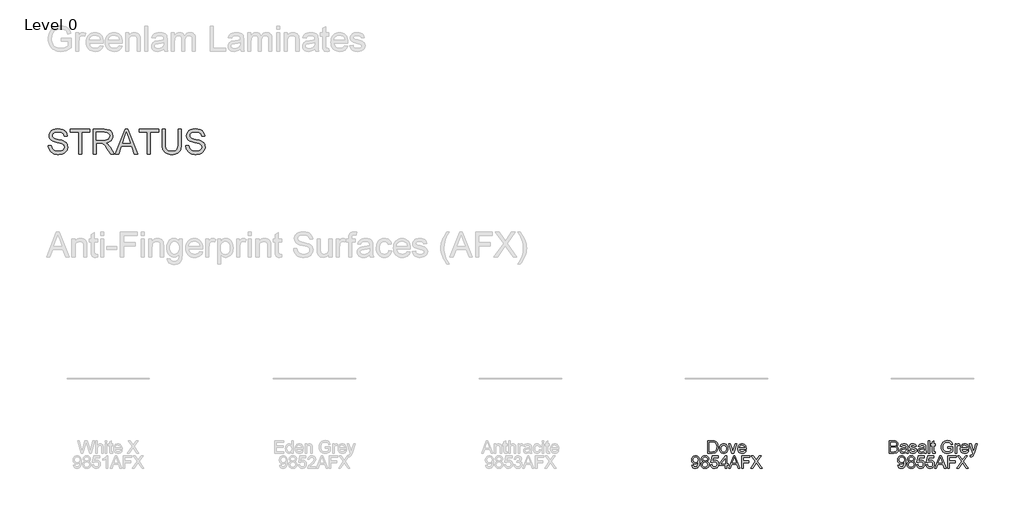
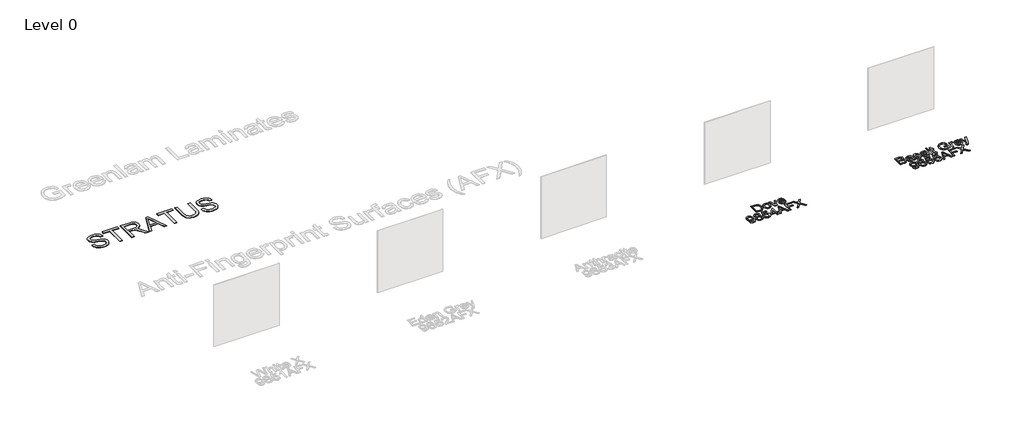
# One storey, part 8 of 9: 3 proxies.
"""IFC4 building model written with IfcOpenShell, lengths in millimetres."""

from ifc_helpers import new_model, si_unit, origin, origin_with_axes, place, context, project, spatial, polyline, outline, extrude, element, save

model = new_model("IFC4")

# Units and contexts
model_context = context("Model", 3, world=origin())
ifc_project = project(units=[si_unit("LENGTHUNIT", "METRE", prefix="MILLI")], contexts=[model_context])

# Site, building, storey
site = spatial("IfcSite", under=ifc_project)
building = spatial("IfcBuilding", under=site)
storey = spatial("IfcBuildingStorey", under=building, Name="Level 0", Elevation=0.0)

# Proxies
placement = place(None, origin())
element("IfcBuildingElementProxy", 1, Name="300mm Arial", ObjectType="300mm Arial", at=placement, inside=storey, context=model_context, shape_type="SweptSolid", body=[
    extrude(outline(polyline([(9492.1962424, -7002.860494), (9492.1962424, -6701.4915635), (9607.196154, -6701.4915635), (9638.8248086, -6703.7080526), (9663.5188875, -6710.3575196), (9682.4464162, -6721.6055116), (9696.7754199, -6737.6175755), (9705.7977258, -6756.4531336), (9708.8051611, -6776.1716086), (9706.2759724, -6794.317388), (9698.6884062, -6811.3779155), (9685.9872804, -6826.3047274), (9668.1174124, -6838.0493601), (9689.4637652, -6849.1961846), (9705.2367058, -6866.1555446), (9714.9763816, -6887.8054), (9718.2229402, -6913.0237108), (9716.0064512, -6934.0389697), (9709.3569841, -6953.5275184), (9699.4333673, -6970.1006023), (9687.394429, -6982.3694669), (9672.651558, -6991.253817), (9654.6161432, -6997.6733578), (9606.3132373, -7002.860494), (9492.1962424, -7002.860494)]), holes=[polyline([(9529.8673587, -6823.9226915), (9598.6612918, -6823.9226915), (9638.8340056, -6820.68533), (9652.8962949, -6815.1027207), (9663.0038527, -6806.7426024), (9669.1014968, -6795.7337336), (9671.1340448, -6782.2048733), (9669.2394525, -6769.071486), (9663.5556757, -6757.630356), (9654.3402317, -6748.7000206), (9641.850638, -6743.0990172), (9593.4373674, -6739.1626798), (9529.8673587, -6739.1626798), (9529.8673587, -6823.9226915)]), polyline([(9529.8673587, -6965.1893777), (9607.1225776, -6965.1893777), (9635.0816093, -6963.7178497), (9658.7364216, -6955.5140812), (9674.4081946, -6938.7754504), (9679.0159166, -6926.9480443), (9680.5518239, -6913.3915928), (9678.7492021, -6897.6462434), (9673.3413368, -6884.1081859), (9663.8959666, -6873.5223815), (9649.9808301, -6866.6337912), (9630.2715522, -6862.8538037), (9603.4437577, -6861.5938078), (9529.8673587, -6861.5938078), (9529.8673587, -6965.1893777)])]), origin_with_axes(), (0.0, 0.0, 1.0), 10.0),
    extrude(outline(polyline([(9906.5785217, -6974.6071568), (9888.5798951, -6990.0398064), (9870.0478396, -7000.1381672), (9850.5592909, -7005.7115794), (9829.6911847, -7007.5693835), (9798.209683, -7003.0996173), (9774.987132, -6989.6903186), (9760.6673254, -6969.3280501), (9755.8940565, -6943.9993748), (9757.6966783, -6928.3827841), (9763.1045436, -6914.2009331), (9771.4462678, -6902.0608273), (9782.0504664, -6892.5694718), (9808.4276054, -6880.2086368), (9841.0219502, -6874.5432541), (9879.5391951, -6868.5835657), (9906.3577925, -6861.5938078), (9906.5785217, -6853.2060983), (9903.9849537, -6836.3938912), (9896.2042495, -6825.3942195), (9878.8034311, -6817.2272392), (9854.5600076, -6814.5049125), (9832.1192059, -6816.3167313), (9816.4474329, -6821.7521878), (9805.7604609, -6831.8045633), (9798.2740623, -6847.4671392), (9760.602946, -6842.7582497), (9767.1420485, -6822.156858), (9776.9001184, -6805.9700502), (9790.7876637, -6793.590821), (9809.7151924, -6784.4121652), (9832.8641669, -6778.7283884), (9859.4160499, -6776.8337961), (9884.8826811, -6778.5076592), (9905.0702055, -6783.5292485), (9920.2913231, -6791.0800264), (9930.8587334, -6800.3414556), (9937.8668854, -6811.7917827), (9942.410228, -6825.9092543), (9944.249638, -6858.8714811), (9944.249638, -6905.7396473), (9946.1626244, -6971.1858542), (9953.6674171, -7002.860494), (9915.9963008, -7002.860494), (9906.5785217, -6974.6071568)]), holes=[polyline([(9906.5785217, -6899.2649241), (9845.8044161, -6910.8164188), (9813.3940123, -6916.9232599), (9798.7155207, -6926.8560738), (9793.5651728, -6941.3506244), (9796.370273, -6952.5526311), (9804.7855737, -6961.7312869), (9818.6271337, -6967.8565221), (9837.7110122, -6969.8982672), (9857.944522, -6967.64499), (9875.8235869, -6960.8851583), (9890.3181375, -6950.9247533), (9900.3981042, -6939.069756), (9904.8678704, -6926.8560738), (9906.3577925, -6909.933502), (9906.5785217, -6899.2649241)])]), origin_with_axes(), (0.0, 0.0, 1.0), 10.0),
    extrude(outline(polyline([(9981.9207543, -6936.9360404), (10019.5918706, -6932.2271509), (10025.5331649, -6948.3403823), (10037.0294772, -6960.1861825), (10054.1543841, -6967.470246), (10076.9814619, -6969.8982672), (10099.5326282, -6967.6725811), (10115.3883422, -6960.9955229), (10124.7693331, -6951.3202265), (10127.89633, -6940.0998256), (10124.750939, -6930.4981055), (10115.3147658, -6923.1772538), (10076.5400035, -6912.4350996), (10019.8125998, -6894.0042116), (10005.456005, -6884.7427824), (9995.0541416, -6872.4831149), (9988.7357683, -6858.0069584), (9986.6296439, -6842.0960621), (9988.321901, -6827.5003439), (9993.3986726, -6814.0266659), (10001.400106, -6802.2084568), (10011.8663487, -6792.5791455), (10035.8154666, -6781.4323211), (10068.2258704, -6776.8337961), (10092.7452054, -6778.6824032), (10114.063967, -6784.2282242), (10131.207268, -6792.9286334), (10143.200221, -6804.2410048), (10151.1464721, -6819.0022698), (10156.1496672, -6838.0493601), (10118.4785509, -6842.7582497), (10113.7236762, -6830.9032524), (10104.3150941, -6821.972917), (10090.1608344, -6816.3719136), (10071.1689264, -6814.5049125), (10049.537465, -6816.2891401), (10035.1164908, -6821.6418232), (10027.0046928, -6829.3673451), (10024.3007602, -6838.2700893), (10028.7889205, -6849.2329728), (10042.8420127, -6857.5471059), (10075.2892047, -6865.5669334), (10130.5818686, -6883.2988455), (10145.1867838, -6891.7785255), (10156.2600318, -6903.3852025), (10163.2405927, -6918.1556646), (10165.5674463, -6936.1267001), (10162.8359225, -6954.7047408), (10154.6413511, -6972.1791356), (10141.2964317, -6987.1795239), (10123.1138641, -6998.3355454), (10101.151309, -7005.260924), (10076.4664271, -7007.5693835), (10038.4826111, -7003.1180114), (10010.7627028, -6989.763895), (9992.2582384, -6967.654187), (9981.9207543, -6936.9360404)])), origin_with_axes(), (0.0, 0.0, 1.0), 10.0),
    extrude(outline(polyline([(10349.2141383, -6974.6071568), (10331.2155117, -6990.0398064), (10312.6834562, -7000.1381672), (10293.1949075, -7005.7115794), (10272.3268013, -7007.5693835), (10240.8452996, -7003.0996173), (10217.6227486, -6989.6903186), (10203.302942, -6969.3280501), (10198.5296731, -6943.9993748), (10200.3322949, -6928.3827841), (10205.7401602, -6914.2009331), (10214.0818844, -6902.0608273), (10224.6860829, -6892.5694718), (10251.063222, -6880.2086368), (10283.6575668, -6874.5432541), (10322.1748117, -6868.5835657), (10348.9934091, -6861.5938078), (10349.2141383, -6853.2060983), (10346.6205703, -6836.3938912), (10338.8398661, -6825.3942195), (10321.4390477, -6817.2272392), (10297.1956242, -6814.5049125), (10274.7548225, -6816.3167313), (10259.0830495, -6821.7521878), (10248.3960775, -6831.8045633), (10240.9096789, -6847.4671392), (10203.2385626, -6842.7582497), (10209.7776651, -6822.156858), (10219.535735, -6805.9700502), (10233.4232803, -6793.590821), (10252.350809, -6784.4121652), (10275.4997835, -6778.7283884), (10302.0516665, -6776.8337961), (10327.5182977, -6778.5076592), (10347.7058221, -6783.5292485), (10362.9269397, -6791.0800264), (10373.49435, -6800.3414556), (10380.502502, -6811.7917827), (10385.0458446, -6825.9092543), (10386.8852546, -6858.8714811), (10386.8852546, -6905.7396473), (10388.798241, -6971.1858542), (10396.3030337, -7002.860494), (10358.6319174, -7002.860494), (10349.2141383, -6974.6071568)]), holes=[polyline([(10349.2141383, -6899.2649241), (10288.4400327, -6910.8164188), (10256.0296289, -6916.9232599), (10241.3511373, -6926.8560738), (10236.2007894, -6941.3506244), (10239.0058896, -6952.5526311), (10247.4211903, -6961.7312869), (10261.2627503, -6967.8565221), (10280.3466288, -6969.8982672), (10300.5801386, -6967.64499), (10318.4592035, -6960.8851583), (10332.9537541, -6950.9247533), (10343.0337208, -6939.069756), (10347.503487, -6926.8560738), (10348.9934091, -6909.933502), (10349.2141383, -6899.2649241)])]), origin_with_axes(), (0.0, 0.0, 1.0), 10.0),
    extrude(outline(polyline([(10438.6830395, -7002.860494), (10438.6830395, -6701.4915635), (10476.3541558, -6701.4915635), (10476.3541558, -7002.860494), (10438.6830395, -7002.860494)])), origin_with_axes(), (0.0, 0.0, 1.0), 10.0),
    extrude(outline(polyline([(10612.9119525, -6971.4433716), (10617.620842, -7003.96414), (10589.4410812, -7007.5693835), (10571.3596811, -7006.005885), (10557.876806, -7001.3153896), (10548.3486623, -6994.0865084), (10542.1314566, -6984.9078526), (10538.710154, -6969.1441091), (10537.5697198, -6942.1599648), (10537.5697198, -6819.213802), (10509.3163826, -6819.213802), (10509.3163826, -6781.5426857), (10537.5697198, -6781.5426857), (10537.5697198, -6727.758338), (10575.2408362, -6705.6118419), (10575.2408362, -6781.5426857), (10612.9119525, -6781.5426857), (10612.9119525, -6819.213802), (10575.2408362, -6819.213802), (10575.2408362, -6941.0563188), (10577.2273989, -6960.4804881), (10583.6653338, -6967.3598814), (10596.5044155, -6969.8982672), (10612.9119525, -6971.4433716)])), origin_with_axes(), (0.0, 0.0, 1.0), 10.0),
    extrude(outline(polyline([(10914.2808829, -6885.1382555), (10914.2808829, -6847.4671392), (11036.7120109, -6847.4671392), (11036.7120109, -6960.1126061), (11006.9595545, -6980.8059684), (10976.2689991, -6995.6500069), (10944.713921, -7004.5895394), (10912.3678965, -7007.5693835), (10870.1074523, -7002.8329028), (10831.9121042, -6988.6234608), (10800.1822821, -6965.437698), (10777.3184161, -6933.7722553), (10763.4952501, -6895.7884393), (10758.8875281, -6853.6475567), (10763.476856, -6811.2031715), (10777.2448397, -6771.7202364), (10799.6212621, -6738.6016598), (10830.035906, -6715.2503502), (10867.0816229, -6701.399593), (10909.3512642, -6696.782674), (10940.3821105, -6699.4590155), (10968.2859598, -6707.4880401), (10991.7844222, -6720.2903335), (11009.5991079, -6737.2864817), (11022.7784803, -6759.295022), (11032.3710034, -6787.134492), (10997.642943, -6796.9201531), (10989.88983, -6777.0637224), (10980.4628538, -6762.0817281), (10967.9916542, -6750.7877509), (10951.1058706, -6741.9953712), (10930.9735284, -6736.3391855), (10908.762653, -6734.4537903), (10882.762593, -6736.4863383), (10860.5333234, -6742.5839824), (10842.1576178, -6751.9833674), (10827.7182494, -6763.9211381), (10808.3308683, -6792.9470275), (10799.5017004, -6821.3843058), (10796.5586445, -6852.1024524), (10800.0995087, -6888.1272967), (10810.7221013, -6917.7693885), (10828.1045255, -6940.8171955), (10851.9248847, -6957.0591856), (10879.8011429, -6966.6884968), (10909.3512642, -6969.8982672), (10935.4432947, -6967.4794431), (10960.8915317, -6960.2229707), (10982.9920426, -6950.2257775), (10999.0408946, -6939.5847908), (10999.0408946, -6885.1382555), (10914.2808829, -6885.1382555)])), origin_with_axes(), (0.0, 0.0, 1.0), 10.0),
    extrude(outline(polyline([(11093.2186854, -7002.860494), (11093.2186854, -6781.5426857), (11126.1809121, -6781.5426857), (11126.1809121, -6814.2841833), (11138.3578062, -6795.3014723), (11149.578207, -6784.1178596), (11160.8353961, -6778.654812), (11173.1226547, -6776.8337961), (11191.8846365, -6779.7400639), (11210.9409238, -6788.4588672), (11198.3593596, -6822.2304343), (11185.1156078, -6816.4362929), (11171.8718559, -6814.5049125), (11160.6238639, -6816.3627165), (11150.5714884, -6821.9361288), (11142.4504934, -6830.8020848), (11136.9966428, -6842.5375205), (11132.4165119, -6863.5803706), (11130.8898017, -6886.5362071), (11130.8898017, -7002.860494), (11093.2186854, -7002.860494)])), origin_with_axes(), (0.0, 0.0, 1.0), 10.0),
    extrude(outline(polyline([(11389.4372679, -6936.9360404), (11426.3726202, -6941.64493), (11413.064489, -6969.4752029), (11391.8285008, -6990.2789297), (11363.1429023, -7003.2467701), (11327.4859399, -7007.5693835), (11304.1116376, -7005.7046817), (11283.2849182, -7000.1105761), (11265.0057815, -6990.7870668), (11249.2742277, -6977.7341537), (11236.6236856, -6961.3151204), (11227.5875841, -6941.8932503), (11222.1659232, -6919.4685435), (11220.3587029, -6894.0409998), (11222.1843173, -6867.7512327), (11227.6611605, -6844.5792656), (11236.7892325, -6824.5250983), (11249.5685333, -6807.5887309), (11265.2587004, -6794.133447), (11283.1193713, -6784.5225298), (11303.1505459, -6778.7559796), (11325.3522243, -6776.8337961), (11346.8388321, -6778.751381), (11366.2698992, -6784.5041357), (11383.6454257, -6794.0920602), (11398.9654116, -6807.5151545), (11411.4711001, -6824.4147337), (11420.4037348, -6844.4321128), (11425.7633156, -6867.5672917), (11427.5498426, -6893.8202706), (11427.3291134, -6903.9738137), (11258.0298192, -6903.9738137), (11264.5505276, -6932.1719686), (11279.6980687, -6952.902119), (11301.5594563, -6965.6492302), (11328.2217039, -6969.8982672), (11348.2712726, -6967.9300985), (11365.1570562, -6962.0255925), (11378.8790546, -6951.8168672), (11389.4372679, -6936.9360404)]), holes=[polyline([(11258.0298192, -6866.3026974), (11389.8787263, -6866.3026974), (11384.7835606, -6846.4002814), (11374.7955645, -6832.1632482), (11352.8330094, -6818.9194964), (11325.2050715, -6814.5049125), (11299.8120168, -6818.0273826), (11278.8151519, -6828.5947929), (11264.2194338, -6845.0667092), (11258.0298192, -6866.3026974)])]), origin_with_axes(), (0.0, 0.0, 1.0), 10.0),
    extrude(outline(polyline([(11465.2209589, -7087.6205057), (11460.5120693, -7051.3473409), (11479.6419331, -7054.6582789), (11497.5209981, -7050.5012124), (11508.4838815, -7038.9129295), (11518.7845774, -7011.1746271), (11521.7276333, -7002.0511536), (11441.6765112, -6781.5426857), (11481.4077667, -6781.5426857), (11523.8613489, -6904.4152721), (11538.6502051, -6953.5643066), (11553.4390613, -6910.1542312), (11597.069866, -6781.5426857), (11636.5068158, -6781.5426857), (11559.472326, -7008.1579947), (11539.4595455, -7057.3070293), (11529.2140319, -7072.9971964), (11517.607355, -7083.8681093), (11504.1244799, -7090.2140737), (11488.2503718, -7092.3293952), (11465.2209589, -7087.6205057)])), origin_with_axes(), (0.0, 0.0, 1.0), 10.0),
    extrude(outline(polyline([(9704.0962716, -7293.4427149), (9741.7673879, -7288.7338254), (9748.2053228, -7310.1169663), (9758.6899597, -7324.6758963), (9772.9637811, -7333.0360146), (9790.7692696, -7335.8227207), (9806.7445453, -7334.029296), (9821.266687, -7328.6490218), (9833.3332165, -7320.2705094), (9841.9416552, -7309.4823699), (9854.265702, -7276.7408723), (9859.7103555, -7233.0364913), (9859.4896263, -7225.6788514), (9846.4390126, -7241.6081418), (9829.3600909, -7254.2264942), (9809.4852661, -7262.4486568), (9788.0469429, -7265.1893777), (9770.1517831, -7263.5155146), (9753.6959616, -7258.4939254), (9738.6794784, -7250.12461), (9725.1023335, -7238.4075684), (9713.8520422, -7223.9544045), (9705.8161199, -7207.3767221), (9700.9945665, -7188.6745212), (9699.387382, -7167.8478018), (9701.0727414, -7146.326705), (9706.1288196, -7127.0129003), (9714.5556165, -7109.9063875), (9726.3531323, -7095.0071667), (9740.6890338, -7082.9360387), (9756.730988, -7074.3138045), (9774.478995, -7069.1404639), (9793.9330548, -7067.4160171), (9822.0300422, -7071.3523544), (9847.6070379, -7083.1613665), (9868.9993759, -7102.254442), (9884.5423902, -7128.0429699), (9894.0061545, -7163.6907352), (9897.1607426, -7212.3615232), (9894.0153516, -7263.96617), (9884.5791784, -7303.8537754), (9868.9349966, -7333.8269609), (9847.1655795, -7355.6883485), (9820.2090263, -7369.0424649), (9789.0034361, -7373.4938371), (9756.7953674, -7368.2423216), (9731.09881, -7352.4877751), (9713.1277746, -7327.2234791), (9704.0962716, -7293.4427149)]), holes=[polyline([(9859.4896263, -7166.964885), (9855.4245303, -7141.4338745), (9843.2292422, -7121.788976), (9824.3017135, -7109.262594), (9800.0398959, -7105.0871334), (9774.8767674, -7109.5844908), (9754.7168341, -7123.0765629), (9741.4730823, -7143.7239399), (9737.0584983, -7169.6872117), (9741.233959, -7192.964945), (9753.7603409, -7211.4418182), (9773.4236336, -7223.4991506), (9799.0098263, -7227.5182614), (9823.0785059, -7223.4991506), (9842.45669, -7211.4418182), (9855.2313922, -7192.2843633), (9859.4896263, -7166.964885)])]), origin_with_axes(), (0.0, 0.0, 1.0), 10.0),
    extrude(outline(polyline([(9985.0109631, -7202.7965913), (9964.8418327, -7192.8637774), (9950.6875729, -7179.3992964), (9942.3274546, -7162.6790597), (9939.5407485, -7142.9789789), (9941.0582617, -7127.6153071), (9945.6108014, -7113.5300252), (9953.1983676, -7100.7231332), (9963.8209602, -7089.1946312), (9976.968143, -7079.6664875), (9992.1294797, -7072.8606706), (10028.4946149, -7067.4160171), (10065.0804793, -7072.9894293), (10080.407363, -7079.9561946), (10093.7568809, -7089.709666), (10104.5726115, -7101.4634957), (10112.2981334, -7114.4313361), (10116.9334466, -7128.613187), (10118.4785509, -7144.0090485), (10115.728633, -7163.0745329), (10107.4788793, -7179.509661), (10093.6373192, -7192.8913686), (10074.1119823, -7202.7965913), (10097.2977451, -7214.7435591), (10114.1743316, -7232.3375155), (10124.4658304, -7254.732332), (10127.89633, -7281.0818799), (10126.1948758, -7299.8714528), (10121.0905131, -7317.0975272), (10112.583242, -7332.7601031), (10100.6730624, -7346.8591806), (10085.9853737, -7358.5118428), (10069.1455754, -7366.8351729), (10050.1536674, -7371.829171), (10029.0096497, -7373.4938371), (10007.865632, -7371.8222732), (9988.873724, -7366.8075818), (9972.0339257, -7358.4497627), (9957.3462371, -7346.748816), (9945.4360575, -7332.5508703), (9936.9287863, -7316.7020541), (9931.8244236, -7299.2023674), (9930.1229694, -7280.0518103), (9933.6914248, -7252.6813898), (9944.3967908, -7230.1670117), (9961.6872446, -7213.2812282), (9985.0109631, -7202.7965913)]), holes=[polyline([(9977.2118648, -7144.0826249), (9980.5503939, -7160.52695), (9990.5659812, -7173.6603373), (10006.9643212, -7182.268776), (10029.4511081, -7185.1382555), (10051.4136632, -7182.2871701), (10067.5636828, -7173.7339137), (10077.4964967, -7161.0419848), (10080.8074346, -7145.774882), (10077.3861321, -7129.9283651), (10067.1222244, -7116.822569), (10050.7514756, -7108.0209923), (10029.0096497, -7105.0871334), (10007.1298681, -7107.9566129), (9990.7867104, -7116.5650516), (9980.6055762, -7129.1834041), (9977.2118648, -7144.0826249)]), polyline([(9967.7940857, -7278.7274351), (9974.0848678, -7307.0911369), (9982.7944741, -7319.2588339), (9996.3417285, -7328.317928), (10012.5653245, -7333.9465226), (10029.3039553, -7335.8227207), (10054.9453304, -7331.8771864), (10074.1855587, -7320.0405832), (10086.2153, -7302.1155329), (10090.2252137, -7279.9046575), (10086.0865413, -7257.316703), (10073.6705239, -7238.9961796), (10053.9888372, -7226.8560738), (10028.0531565, -7222.8093718), (10002.7704664, -7226.8008915), (9983.7233761, -7238.7754504), (9971.7764083, -7256.7464859), (9967.7940857, -7278.7274351)])]), origin_with_axes(), (0.0, 0.0, 1.0), 10.0),
    extrude(outline(polyline([(10160.8585568, -7288.7338254), (10198.5296731, -7284.0249358), (10205.4458546, -7306.6404815), (10217.512384, -7322.8364863), (10234.6740791, -7332.5761621), (10256.8757575, -7335.8227207), (10283.878296, -7331.3069693), (10304.1118057, -7317.7597148), (10316.7485522, -7296.7444558), (10320.9608011, -7269.8246908), (10317.0152667, -7244.4776213), (10305.1786635, -7225.0902402), (10285.359021, -7212.7845875), (10257.4643687, -7208.6827032), (10239.1898306, -7210.3197781), (10224.3917774, -7215.2310027), (10203.2385626, -7232.2271509), (10165.5674463, -7227.5182614), (10198.5296731, -7072.1249066), (10344.5052488, -7072.1249066), (10344.5052488, -7109.7960229), (10228.9903023, -7109.7960229), (10212.8770709, -7192.790201), (10239.7876389, -7176.4562404), (10267.9857938, -7171.0115869), (10286.331609, -7172.6992456), (10303.1829037, -7177.7622215), (10318.5396777, -7186.2005148), (10332.4019311, -7198.0141254), (10343.8775501, -7212.4810848), (10352.0744208, -7228.8794248), (10356.9925433, -7247.2091452), (10358.6319174, -7267.470246), (10352.7274114, -7305.1413624), (10345.3467788, -7321.9351754), (10335.0138933, -7337.3678251), (10319.3605144, -7353.1729553), (10301.0951733, -7364.4623341), (10280.2178701, -7371.2359613), (10256.7286047, -7373.4938371), (10219.7288731, -7367.6904986), (10204.0502023, -7360.4363255), (10190.2523282, -7350.2804832), (10178.7721107, -7337.7288093), (10170.0464096, -7323.2871418), (10160.8585568, -7288.7338254)])), origin_with_axes(), (0.0, 0.0, 1.0), 10.0),
    extrude(outline(polyline([(10391.5941442, -7288.7338254), (10429.2652605, -7284.0249358), (10436.181442, -7306.6404815), (10448.2479714, -7322.8364863), (10465.4096665, -7332.5761621), (10487.6113449, -7335.8227207), (10514.6138833, -7331.3069693), (10534.8473931, -7317.7597148), (10547.4841396, -7296.7444558), (10551.6963885, -7269.8246908), (10547.7508541, -7244.4776213), (10535.9142509, -7225.0902402), (10516.0946084, -7212.7845875), (10488.1999561, -7208.6827032), (10469.925418, -7210.3197781), (10455.1273647, -7215.2310027), (10433.97415, -7232.2271509), (10396.3030337, -7227.5182614), (10429.2652605, -7072.1249066), (10575.2408362, -7072.1249066), (10575.2408362, -7109.7960229), (10459.7258897, -7109.7960229), (10443.6126583, -7192.790201), (10470.5232262, -7176.4562404), (10498.7213812, -7171.0115869), (10517.0671964, -7172.6992456), (10533.918491, -7177.7622215), (10549.2752651, -7186.2005148), (10563.1375185, -7198.0141254), (10574.6131375, -7212.4810848), (10582.8100082, -7228.8794248), (10587.7281306, -7247.2091452), (10589.3675048, -7267.470246), (10583.4629987, -7305.1413624), (10576.0823662, -7321.9351754), (10565.7494807, -7337.3678251), (10550.0961018, -7353.1729553), (10531.8307607, -7364.4623341), (10510.9534575, -7371.2359613), (10487.4641921, -7373.4938371), (10450.4644604, -7367.6904986), (10434.7857897, -7360.4363255), (10420.9879156, -7350.2804832), (10409.5076981, -7337.7288093), (10400.781997, -7323.2871418), (10391.5941442, -7288.7338254)])), origin_with_axes(), (0.0, 0.0, 1.0), 10.0),
    extrude(outline(polyline([(10601.3604578, -7368.7849475), (10721.6578702, -7067.4160171), (10753.7371802, -7067.4160171), (10874.0345926, -7368.7849475), (10834.2297608, -7368.7849475), (10799.7224296, -7274.6071568), (10675.5990444, -7274.6071568), (10641.1652897, -7368.7849475), (10601.3604578, -7368.7849475)]), holes=[polyline([(10689.4314075, -7236.9360404), (10785.963643, -7236.9360404), (10758.8139517, -7162.8446066), (10737.6975252, -7105.0871334), (10718.9355435, -7156.3698835), (10689.4314075, -7236.9360404)])]), origin_with_axes(), (0.0, 0.0, 1.0), 10.0),
    extrude(outline(polyline([(10914.2808829, -7368.7849475), (10914.2808829, -7067.4160171), (11116.7631331, -7067.4160171), (11116.7631331, -7105.0871334), (10951.9519992, -7105.0871334), (10951.9519992, -7194.5560346), (11093.2186854, -7194.5560346), (11093.2186854, -7232.2271509), (10951.9519992, -7232.2271509), (10951.9519992, -7368.7849475), (10914.2808829, -7368.7849475)])), origin_with_axes(), (0.0, 0.0, 1.0), 10.0),
    extrude(outline(polyline([(11135.5986912, -7368.7849475), (11251.7758253, -7204.5624249), (11154.4342494, -7067.4160171), (11199.6101584, -7067.4160171), (11254.4245756, -7144.5976597), (11272.8922518, -7174.6904069), (11294.5237131, -7144.0826249), (11348.7495192, -7067.4160171), (11394.5876158, -7067.4160171), (11297.2460399, -7205.0038833), (11413.423174, -7368.7849475), (11368.247265, -7368.7849475), (11290.8448932, -7259.5975713), (11274.7316618, -7236.9360404), (11256.9997496, -7261.8048633), (11181.4367878, -7368.7849475), (11135.5986912, -7368.7849475)])), origin_with_axes(), (0.0, 0.0, 1.0), 10.0),
])
element("IfcBuildingElementProxy", 2, Name="300mm Arial", ObjectType="300mm Arial", at=placement, inside=storey, context=model_context, shape_type="SweptSolid", body=[
    extrude(outline(polyline([(5094.9341033, -7002.860494), (5094.9341033, -6701.4915635), (5198.8975551, -6701.4915635), (5252.6819028, -6705.8325711), (5276.7045971, -6714.2018865), (5296.974895, -6727.390456), (5317.81541, -6750.3462925), (5332.6594485, -6778.8939353), (5341.5437987, -6812.4815615), (5344.5052488, -6850.557348), (5342.5002919, -6882.9033724), (5336.4854213, -6911.3682418), (5327.3251596, -6935.6024682), (5315.8840296, -6955.2565638), (5302.7138541, -6970.771987), (5288.3664563, -6982.590196), (5271.89454, -6991.3549846), (5252.350809, -6997.710146), (5203.9007502, -7002.860494), (5094.9341033, -7002.860494)]), holes=[polyline([(5132.6052196, -6965.1893777), (5199.2654371, -6965.1893777), (5226.8381926, -6963.8282143), (5247.752284, -6959.7447241), (5263.5344216, -6953.1780305), (5275.7113157, -6944.3672567), (5288.7987177, -6928.0608873), (5298.630364, -6906.9536578), (5304.7831903, -6880.9535978), (5306.8341325, -6849.9687368), (5302.8150217, -6808.9131061), (5290.7576893, -6778.5996297), (5272.9430037, -6757.7775088), (5251.6518332, -6745.1959446), (5229.9835837, -6740.670996), (5198.2353675, -6739.1626798), (5132.6052196, -6739.1626798), (5132.6052196, -6965.1893777)])]), origin_with_axes(), (0.0, 0.0, 1.0), 10.0),
    extrude(outline(polyline([(5382.1763651, -6892.2015898), (5384.2135116, -6863.5389839), (5390.3249513, -6838.8403064), (5400.510684, -6818.1055575), (5414.7707099, -6801.334737), (5429.1273047, -6790.6155754), (5444.9738217, -6782.9590314), (5462.3102607, -6778.3651049), (5481.1366218, -6776.8337961), (5501.9196553, -6778.698498), (5520.7115274, -6784.2926036), (5537.5122383, -6793.6161129), (5552.3217879, -6806.669026), (5564.4090107, -6823.0098843), (5573.0427412, -6842.1972296), (5578.2229796, -6864.2310619), (5579.9497257, -6889.1113811), (5576.8963051, -6927.1687735), (5567.7360435, -6956.1394806), (5552.7356551, -6977.8353213), (5532.1618545, -6994.0681143), (5507.725293, -7004.1940662), (5481.1366218, -7007.5693835), (5460.0500857, -7005.7115794), (5441.0834696, -7000.1381672), (5424.2367734, -6990.8491468), (5409.5099973, -6977.8445183), (5397.5515332, -6961.3450108), (5389.0097731, -6941.5713536), (5383.8847171, -6918.5235466), (5382.1763651, -6892.2015898)]), holes=[polyline([(5419.8474814, -6892.1280134), (5424.206883, -6926.2214773), (5437.285088, -6950.5108861), (5456.9667747, -6965.0514219), (5481.1366218, -6969.8982672), (5505.1961043, -6965.0238308), (5524.8410028, -6950.4005215), (5537.9192077, -6925.789216), (5542.2786094, -6890.950791), (5537.8916166, -6857.8506085), (5524.7306382, -6833.8922936), (5505.0581485, -6819.3517577), (5481.1366218, -6814.5049125), (5456.9667747, -6819.3333636), (5437.285088, -6833.8187172), (5424.206883, -6858.0529436), (5419.8474814, -6892.1280134)])]), origin_with_axes(), (0.0, 0.0, 1.0), 10.0),
    extrude(outline(polyline([(5676.629114, -7002.860494), (5598.7852838, -6781.5426857), (5638.6636921, -6781.5426857), (5685.8261639, -6914.1273567), (5700.0264089, -6958.7146546), (5713.9323483, -6916.6289543), (5761.3891257, -6781.5426857), (5801.267534, -6781.5426857), (5724.380197, -7002.860494), (5676.629114, -7002.860494)])), origin_with_axes(), (0.0, 0.0, 1.0), 10.0),
    extrude(outline(polyline([(5989.1816571, -6936.9360404), (6026.1170094, -6941.64493), (6012.8088783, -6969.4752029), (5991.5728901, -6990.2789297), (5962.8872915, -7003.2467701), (5927.2303291, -7007.5693835), (5903.8560269, -7005.7046817), (5883.0293074, -7000.1105761), (5864.7501708, -6990.7870668), (5849.018617, -6977.7341537), (5836.3680749, -6961.3151204), (5827.3319733, -6941.8932503), (5821.9103124, -6919.4685435), (5820.1030921, -6894.0409998), (5821.9287065, -6867.7512327), (5827.4055497, -6844.5792656), (5836.5336218, -6824.5250983), (5849.3129226, -6807.5887309), (5865.0030897, -6794.133447), (5882.8637605, -6784.5225298), (5902.8949352, -6778.7559796), (5925.0966136, -6776.8337961), (5946.5832213, -6778.751381), (5966.0142885, -6784.5041357), (5983.389815, -6794.0920602), (5998.7098008, -6807.5151545), (6011.2154894, -6824.4147337), (6020.1481241, -6844.4321128), (6025.5077049, -6867.5672917), (6027.2942318, -6893.8202706), (6027.0735026, -6903.9738137), (5857.7742084, -6903.9738137), (5864.2949168, -6932.1719686), (5879.442458, -6952.902119), (5901.3038455, -6965.6492302), (5927.9660931, -6969.8982672), (5948.0156619, -6967.9300985), (5964.9014454, -6962.0255925), (5978.6234439, -6951.8168672), (5989.1816571, -6936.9360404)]), holes=[polyline([(5857.7742084, -6866.3026974), (5989.6231155, -6866.3026974), (5984.5279499, -6846.4002814), (5974.5399537, -6832.1632482), (5952.5773986, -6818.9194964), (5924.9494608, -6814.5049125), (5899.5564061, -6818.0273826), (5878.5595412, -6828.5947929), (5863.963823, -6845.0667092), (5857.7742084, -6866.3026974)])]), origin_with_axes(), (0.0, 0.0, 1.0), 10.0),
    extrude(outline(polyline([(4704.0962716, -7293.4427149), (4741.7673879, -7288.7338254), (4748.2053228, -7310.1169663), (4758.6899597, -7324.6758963), (4772.9637811, -7333.0360146), (4790.7692696, -7335.8227207), (4806.7445453, -7334.029296), (4821.266687, -7328.6490218), (4833.3332165, -7320.2705094), (4841.9416552, -7309.4823699), (4854.265702, -7276.7408723), (4859.7103555, -7233.0364913), (4859.4896263, -7225.6788514), (4846.4390126, -7241.6081418), (4829.3600909, -7254.2264942), (4809.4852661, -7262.4486568), (4788.0469429, -7265.1893777), (4770.1517831, -7263.5155146), (4753.6959616, -7258.4939254), (4738.6794784, -7250.12461), (4725.1023335, -7238.4075684), (4713.8520422, -7223.9544045), (4705.8161199, -7207.3767221), (4700.9945665, -7188.6745212), (4699.387382, -7167.8478018), (4701.0727414, -7146.326705), (4706.1288196, -7127.0129003), (4714.5556165, -7109.9063875), (4726.3531323, -7095.0071667), (4740.6890338, -7082.9360387), (4756.730988, -7074.3138045), (4774.478995, -7069.1404639), (4793.9330548, -7067.4160171), (4822.0300422, -7071.3523544), (4847.6070379, -7083.1613665), (4868.9993759, -7102.254442), (4884.5423902, -7128.0429699), (4894.0061545, -7163.6907352), (4897.1607426, -7212.3615232), (4894.0153516, -7263.96617), (4884.5791784, -7303.8537754), (4868.9349966, -7333.8269609), (4847.1655795, -7355.6883485), (4820.2090263, -7369.0424649), (4789.0034361, -7373.4938371), (4756.7953674, -7368.2423216), (4731.09881, -7352.4877751), (4713.1277746, -7327.2234791), (4704.0962716, -7293.4427149)]), holes=[polyline([(4859.4896263, -7166.964885), (4855.4245303, -7141.4338745), (4843.2292422, -7121.788976), (4824.3017135, -7109.262594), (4800.0398959, -7105.0871334), (4774.8767674, -7109.5844908), (4754.7168341, -7123.0765629), (4741.4730823, -7143.7239399), (4737.0584983, -7169.6872117), (4741.233959, -7192.964945), (4753.7603409, -7211.4418182), (4773.4236336, -7223.4991506), (4799.0098263, -7227.5182614), (4823.0785059, -7223.4991506), (4842.45669, -7211.4418182), (4855.2313922, -7192.2843633), (4859.4896263, -7166.964885)])]), origin_with_axes(), (0.0, 0.0, 1.0), 10.0),
    extrude(outline(polyline([(4985.0109631, -7202.7965913), (4964.8418327, -7192.8637774), (4950.6875729, -7179.3992964), (4942.3274546, -7162.6790597), (4939.5407485, -7142.9789789), (4941.0582617, -7127.6153071), (4945.6108014, -7113.5300252), (4953.1983676, -7100.7231332), (4963.8209602, -7089.1946312), (4976.968143, -7079.6664875), (4992.1294797, -7072.8606706), (5028.4946149, -7067.4160171), (5065.0804793, -7072.9894293), (5080.407363, -7079.9561946), (5093.7568809, -7089.709666), (5104.5726115, -7101.4634957), (5112.2981334, -7114.4313361), (5116.9334466, -7128.613187), (5118.4785509, -7144.0090485), (5115.728633, -7163.0745329), (5107.4788793, -7179.509661), (5093.6373192, -7192.8913686), (5074.1119823, -7202.7965913), (5097.2977451, -7214.7435591), (5114.1743316, -7232.3375155), (5124.4658304, -7254.732332), (5127.89633, -7281.0818799), (5126.1948758, -7299.8714528), (5121.0905131, -7317.0975272), (5112.583242, -7332.7601031), (5100.6730624, -7346.8591806), (5085.9853737, -7358.5118428), (5069.1455754, -7366.8351729), (5050.1536674, -7371.829171), (5029.0096497, -7373.4938371), (5007.865632, -7371.8222732), (4988.873724, -7366.8075818), (4972.0339257, -7358.4497627), (4957.3462371, -7346.748816), (4945.4360575, -7332.5508703), (4936.9287863, -7316.7020541), (4931.8244236, -7299.2023674), (4930.1229694, -7280.0518103), (4933.6914248, -7252.6813898), (4944.3967908, -7230.1670117), (4961.6872446, -7213.2812282), (4985.0109631, -7202.7965913)]), holes=[polyline([(4977.2118648, -7144.0826249), (4980.5503939, -7160.52695), (4990.5659812, -7173.6603373), (5006.9643212, -7182.268776), (5029.4511081, -7185.1382555), (5051.4136632, -7182.2871701), (5067.5636828, -7173.7339137), (5077.4964967, -7161.0419848), (5080.8074346, -7145.774882), (5077.3861321, -7129.9283651), (5067.1222244, -7116.822569), (5050.7514756, -7108.0209923), (5029.0096497, -7105.0871334), (5007.1298681, -7107.9566129), (4990.7867104, -7116.5650516), (4980.6055762, -7129.1834041), (4977.2118648, -7144.0826249)]), polyline([(4967.7940857, -7278.7274351), (4974.0848678, -7307.0911369), (4982.7944741, -7319.2588339), (4996.3417285, -7328.317928), (5012.5653245, -7333.9465226), (5029.3039553, -7335.8227207), (5054.9453304, -7331.8771864), (5074.1855587, -7320.0405832), (5086.2153, -7302.1155329), (5090.2252137, -7279.9046575), (5086.0865413, -7257.316703), (5073.6705239, -7238.9961796), (5053.9888372, -7226.8560738), (5028.0531565, -7222.8093718), (5002.7704664, -7226.8008915), (4983.7233761, -7238.7754504), (4971.7764083, -7256.7464859), (4967.7940857, -7278.7274351)])]), origin_with_axes(), (0.0, 0.0, 1.0), 10.0),
    extrude(outline(polyline([(5160.8585568, -7288.7338254), (5198.5296731, -7284.0249358), (5205.4458546, -7306.6404815), (5217.512384, -7322.8364863), (5234.6740791, -7332.5761621), (5256.8757575, -7335.8227207), (5283.878296, -7331.3069693), (5304.1118057, -7317.7597148), (5316.7485522, -7296.7444558), (5320.9608011, -7269.8246908), (5317.0152667, -7244.4776213), (5305.1786635, -7225.0902402), (5285.359021, -7212.7845875), (5257.4643687, -7208.6827032), (5239.1898306, -7210.3197781), (5224.3917774, -7215.2310027), (5203.2385626, -7232.2271509), (5165.5674463, -7227.5182614), (5198.5296731, -7072.1249066), (5344.5052488, -7072.1249066), (5344.5052488, -7109.7960229), (5228.9903023, -7109.7960229), (5212.8770709, -7192.790201), (5239.7876389, -7176.4562404), (5267.9857938, -7171.0115869), (5286.331609, -7172.6992456), (5303.1829037, -7177.7622215), (5318.5396777, -7186.2005148), (5332.4019311, -7198.0141254), (5343.8775501, -7212.4810848), (5352.0744208, -7228.8794248), (5356.9925433, -7247.2091452), (5358.6319174, -7267.470246), (5352.7274114, -7305.1413624), (5345.3467788, -7321.9351754), (5335.0138933, -7337.3678251), (5319.3605144, -7353.1729553), (5301.0951733, -7364.4623341), (5280.2178701, -7371.2359613), (5256.7286047, -7373.4938371), (5219.7288731, -7367.6904986), (5204.0502023, -7360.4363255), (5190.2523282, -7350.2804832), (5178.7721107, -7337.7288093), (5170.0464096, -7323.2871418), (5160.8585568, -7288.7338254)])), origin_with_axes(), (0.0, 0.0, 1.0), 10.0),
    extrude(outline(polyline([(5514.0252722, -7368.7849475), (5514.0252722, -7298.1516044), (5377.4674755, -7298.1516044), (5377.4674755, -7260.4804881), (5523.4430512, -7072.1249066), (5551.6963885, -7072.1249066), (5551.6963885, -7260.4804881), (5589.3675048, -7260.4804881), (5589.3675048, -7298.1516044), (5551.6963885, -7298.1516044), (5551.6963885, -7368.7849475), (5514.0252722, -7368.7849475)]), holes=[polyline([(5514.0252722, -7260.4804881), (5514.0252722, -7144.0826249), (5423.8206069, -7260.4804881), (5514.0252722, -7260.4804881)])]), origin_with_axes(), (0.0, 0.0, 1.0), 10.0),
    extrude(outline(polyline([(5601.3604578, -7368.7849475), (5721.6578702, -7067.4160171), (5753.7371802, -7067.4160171), (5874.0345926, -7368.7849475), (5834.2297608, -7368.7849475), (5799.7224296, -7274.6071568), (5675.5990444, -7274.6071568), (5641.1652897, -7368.7849475), (5601.3604578, -7368.7849475)]), holes=[polyline([(5689.4314075, -7236.9360404), (5785.963643, -7236.9360404), (5758.8139517, -7162.8446066), (5737.6975252, -7105.0871334), (5718.9355435, -7156.3698835), (5689.4314075, -7236.9360404)])]), origin_with_axes(), (0.0, 0.0, 1.0), 10.0),
    extrude(outline(polyline([(5914.2808829, -7368.7849475), (5914.2808829, -7067.4160171), (6116.7631331, -7067.4160171), (6116.7631331, -7105.0871334), (5951.9519992, -7105.0871334), (5951.9519992, -7194.5560346), (6093.2186854, -7194.5560346), (6093.2186854, -7232.2271509), (5951.9519992, -7232.2271509), (5951.9519992, -7368.7849475), (5914.2808829, -7368.7849475)])), origin_with_axes(), (0.0, 0.0, 1.0), 10.0),
    extrude(outline(polyline([(6135.5986912, -7368.7849475), (6251.7758253, -7204.5624249), (6154.4342494, -7067.4160171), (6199.6101584, -7067.4160171), (6254.4245756, -7144.5976597), (6272.8922518, -7174.6904069), (6294.5237131, -7144.0826249), (6348.7495192, -7067.4160171), (6394.5876158, -7067.4160171), (6297.2460399, -7205.0038833), (6413.423174, -7368.7849475), (6368.247265, -7368.7849475), (6290.8448932, -7259.5975713), (6274.7316618, -7236.9360404), (6256.9997496, -7261.8048633), (6181.4367878, -7368.7849475), (6135.5986912, -7368.7849475)])), origin_with_axes(), (0.0, 0.0, 1.0), 10.0),
])
element("IfcBuildingElementProxy", 3, Name="600mm Arial", ObjectType="600mm Arial", at=placement, inside=storey, context=model_context, shape_type="SweptSolid", body=[
    extrude(outline(polyline([(-10905.7165225, 467.3190924), (-10830.3742899, 467.3190924), (-10821.729063, 425.5093036), (-10806.0940782, 391.9032833), (-10781.7035019, 365.2318387), (-10746.7915006, 344.2257768), (-10704.1171891, 330.5957488), (-10656.4396825, 326.0524062), (-10614.4643469, 329.4921029), (-10577.7129356, 339.8111928), (-10547.9328881, 356.1451534), (-10526.8716438, 377.6294619), (-10514.3452619, 402.2959497), (-10510.1698013, 428.1764481), (-10513.2967982, 453.3947588), (-10522.6777891, 475.1917671), (-10541.7340764, 493.7882019), (-10573.8869628, 509.4047926), (-10683.5893738, 538.1731646), (-10755.6022743, 557.2110579), (-10801.6794942, 575.3292461), (-10839.1850636, 600.6763156), (-10865.7645378, 631.3944622), (-10881.6018577, 666.8214983), (-10886.8809643, 706.2952364), (-10885.248488, 728.7314396), (-10880.3510589, 750.4226817), (-10872.1886771, 771.3689628), (-10860.7613427, 791.5702829), (-10846.1978142, 810.203506), (-10828.6268504, 826.445496), (-10808.0484513, 840.2962532), (-10784.4626169, 851.7557773), (-10731.4508214, 867.1516388), (-10672.7736431, 872.2835926), (-10609.2036344, 866.9125155), (-10553.5798767, 850.7992841), (-10529.2444827, 838.797134), (-10507.8889329, 824.2749923), (-10489.5132272, 807.2328588), (-10474.1173657, 787.6707338), (-10461.82091, 766.1588341), (-10452.7434218, 743.2673769), (-10446.884901, 718.9963623), (-10444.2453477, 693.3457902), (-10519.5875803, 693.3457902), (-10524.6275637, 717.3868786), (-10533.4199434, 738.30097), (-10545.9647194, 756.0880645), (-10562.2618918, 770.748162), (-10582.6149632, 782.2076861), (-10607.3274362, 790.3930605), (-10636.3993109, 795.3042852), (-10669.8305872, 796.94136), (-10704.3287213, 795.3226793), (-10733.8052661, 790.4666369), (-10758.2602218, 782.373233), (-10777.6935881, 771.0424676), (-10792.5008385, 757.4216367), (-10803.0774458, 742.4580365), (-10809.4234102, 726.1516671), (-10811.5387317, 708.5025284), (-10810.0396126, 693.318199), (-10805.5422552, 679.5502154), (-10798.0466595, 667.1985774), (-10787.5528256, 656.2632851), (-10771.034924, 645.9074069), (-10745.025667, 635.4411642), (-10664.5330864, 614.1775848), (-10581.4653319, 593.9808633), (-10531.2126514, 576.3593157), (-10488.2624284, 549.0256835), (-10471.6571549, 532.9584373), (-10458.2984399, 515.2909045), (-10448.0299337, 496.1150555), (-10440.6952865, 475.5228608), (-10434.8275686, 430.0894344), (-10436.5152273, 406.5219941), (-10441.5782033, 383.6443326), (-10450.0164965, 361.4564497), (-10461.8301071, 339.9583456), (-10476.8121013, 319.9823533), (-10494.7555457, 302.3608057), (-10515.66044, 287.0937029), (-10539.5267845, 274.1810449), (-10565.6602017, 263.9125387), (-10593.3663145, 256.5778914), (-10653.4966266, 250.7101736), (-10692.0368641, 252.2920662), (-10727.3121489, 257.0377439), (-10759.322481, 264.9472068), (-10788.0678604, 276.0204549), (-10813.7230311, 290.2758822), (-10836.4627369, 307.7318828), (-10856.2869779, 328.3884569), (-10873.1957541, 352.2456043), (-10886.816585, 378.5307728), (-10896.77699, 406.4714104), (-10903.0769692, 436.0675169), (-10905.7165225, 467.3190924)])), origin_with_axes(), (0.0, 0.0, 1.0), 10.0),
    extrude(outline(polyline([(-10171.1297545, 260.1279527), (-10171.1297545, 787.523581), (-10368.9031151, 787.523581), (-10368.9031151, 862.8658136), (-9898.0141613, 862.8658136), (-9898.0141613, 787.523581), (-10095.7875219, 787.523581), (-10095.7875219, 260.1279527), (-10171.1297545, 260.1279527)])), origin_with_axes(), (0.0, 0.0, 1.0), 10.0),
    extrude(outline(polyline([(-9813.2541496, 260.1279527), (-9813.2541496, 862.8658136), (-9553.529461, 862.8658136), (-9483.7238524, 858.8007175), (-9432.937743, 846.6054294), (-9413.3388297, 836.9117388), (-9395.8184497, 824.0910513), (-9380.3766029, 808.1433668), (-9367.0132894, 789.0686853), (-9356.2297485, 767.892478), (-9348.5272192, 745.6402158), (-9343.9057016, 722.3118988), (-9342.3651958, 697.9075269), (-9344.9173771, 666.950257), (-9352.5739211, 638.5313729), (-9365.3348278, 612.6508745), (-9383.2000972, 589.308762), (-9406.3996556, 569.2499962), (-9435.1634291, 553.2195382), (-9469.4914177, 541.2173881), (-9509.3836216, 533.2435459), (-9484.5515869, 517.0199499), (-9466.5621573, 501.0170831), (-9435.6968579, 464.4128246), (-9405.4937461, 423.4675585), (-9304.9883851, 260.1279527), (-9392.5442999, 260.1279527), (-9470.9767413, 385.0606782), (-9527.6305685, 467.7605507), (-9548.6918128, 491.8752155), (-9567.4354004, 506.8296186), (-9603.2671067, 521.1770164), (-9646.9714878, 523.8257668), (-9737.911917, 523.8257668), (-9737.911917, 260.1279527), (-9813.2541496, 260.1279527)]), holes=[polyline([(-9737.911917, 599.1679994), (-9569.2748104, 599.1679994), (-9520.8431457, 601.8351439), (-9483.2639999, 609.8365773), (-9454.9738745, 623.7057285), (-9434.409271, 643.9760264), (-9421.882889, 668.4953614), (-9417.7074284, 695.1116238), (-9419.6985897, 714.3794433), (-9425.6720736, 731.8630351), (-9435.6278801, 747.5623992), (-9449.5660092, 761.4775357), (-9467.8083576, 772.8726805), (-9490.6768221, 781.0120696), (-9518.1714027, 785.8957031), (-9550.2920994, 787.523581), (-9737.911917, 787.523581), (-9737.911917, 599.1679994)])]), origin_with_axes(), (0.0, 0.0, 1.0), 10.0),
    extrude(outline(polyline([(-9280.7081734, 260.1279527), (-9040.1133485, 862.8658136), (-8975.9547286, 862.8658136), (-8735.3599037, 260.1279527), (-8814.9695675, 260.1279527), (-8883.9842298, 448.4835342), (-9132.2310001, 448.4835342), (-9201.0985096, 260.1279527), (-9280.7081734, 260.1279527)]), holes=[polyline([(-9104.5662741, 523.8257668), (-8911.501803, 523.8257668), (-8965.8011855, 672.0086345), (-9008.0340386, 787.523581), (-9045.5580021, 684.9580807), (-9104.5662741, 523.8257668)])]), origin_with_axes(), (0.0, 0.0, 1.0), 10.0),
    extrude(outline(polyline([(-8504.182858, 260.1279527), (-8504.182858, 787.523581), (-8701.9562186, 787.523581), (-8701.9562186, 862.8658136), (-8231.0672647, 862.8658136), (-8231.0672647, 787.523581), (-8428.8406253, 787.523581), (-8428.8406253, 260.1279527), (-8504.182858, 260.1279527)])), origin_with_axes(), (0.0, 0.0, 1.0), 10.0),
    extrude(outline(polyline([(-7750.7605318, 862.8658136), (-7675.4182992, 862.8658136), (-7675.4182992, 515.1437517), (-7680.531859, 433.7130721), (-7686.9238086, 400.0196799), (-7695.8725382, 371.007586), (-7708.1505997, 345.5777431), (-7724.5305456, 322.6311037), (-7745.0123757, 302.1676677), (-7769.59609, 284.1874352), (-7798.3092797, 269.5411332), (-7831.179536, 259.079489), (-7868.2068588, 252.8025024), (-7909.3912482, 250.7101736), (-7949.5593635, 252.5311895), (-7985.8923091, 257.9942371), (-8018.3900848, 267.0993165), (-8047.0526907, 279.8464276), (-8071.8847254, 296.047031), (-8092.8907873, 315.512587), (-8110.0708765, 338.2430958), (-8123.4249929, 364.2385573), (-8133.4359817, 394.3910853), (-8140.586688, 429.5927937), (-8144.8771118, 469.8436825), (-8146.307253, 515.1437517), (-8146.307253, 862.8658136), (-8070.9650204, 862.8658136), (-8070.9650204, 517.7925021), (-8067.2494123, 450.0838209), (-8056.1025878, 402.9397432), (-8047.3377993, 385.5619175), (-8035.9058663, 370.2902161), (-8021.8067888, 357.1246392), (-8005.0405669, 346.0651867), (-7964.7942766, 331.0556013), (-7916.4545825, 326.0524062), (-7874.9299023, 328.5264126), (-7839.8247629, 335.9484319), (-7811.1391643, 348.318464), (-7788.8731065, 365.6365089), (-7772.1988551, 389.990297), (-7760.2886755, 423.4675585), (-7753.1425678, 466.0682936), (-7750.7605318, 517.7925021), (-7750.7605318, 862.8658136)])), origin_with_axes(), (0.0, 0.0, 1.0), 10.0),
    extrude(outline(polyline([(-7571.8227294, 467.3190924), (-7496.4804968, 467.3190924), (-7487.8352699, 425.5093036), (-7472.2002851, 391.9032833), (-7447.8097088, 365.2318387), (-7412.8977075, 344.2257768), (-7370.223396, 330.5957488), (-7322.5458894, 326.0524062), (-7280.5705538, 329.4921029), (-7243.8191425, 339.8111928), (-7214.039095, 356.1451534), (-7192.9778507, 377.6294619), (-7180.4514688, 402.2959497), (-7176.2760082, 428.1764481), (-7179.4030051, 453.3947588), (-7188.783996, 475.1917671), (-7207.8402834, 493.7882019), (-7239.9931697, 509.4047926), (-7349.6955807, 538.1731646), (-7421.7084812, 557.2110579), (-7467.7857011, 575.3292461), (-7505.2912706, 600.6763156), (-7531.8707447, 631.3944622), (-7547.7080646, 666.8214983), (-7552.9871712, 706.2952364), (-7551.3546949, 728.7314396), (-7546.4572658, 750.4226817), (-7538.294884, 771.3689628), (-7526.8675496, 791.5702829), (-7512.3040211, 810.203506), (-7494.7330573, 826.445496), (-7474.1546582, 840.2962532), (-7450.5688238, 851.7557773), (-7397.5570283, 867.1516388), (-7338.87985, 872.2835926), (-7275.3098413, 866.9125155), (-7219.6860836, 850.7992841), (-7195.3506896, 838.797134), (-7173.9951398, 824.2749923), (-7155.6194341, 807.2328588), (-7140.2235726, 787.6707338), (-7127.927117, 766.1588341), (-7118.8496287, 743.2673769), (-7112.9911079, 718.9963623), (-7110.3515546, 693.3457902), (-7185.6937872, 693.3457902), (-7190.7337706, 717.3868786), (-7199.5261503, 738.30097), (-7212.0709263, 756.0880645), (-7228.3680987, 770.748162), (-7248.7211701, 782.2076861), (-7273.4336431, 790.3930605), (-7302.5055178, 795.3042852), (-7335.9367941, 796.94136), (-7370.4349282, 795.3226793), (-7399.911473, 790.4666369), (-7424.3664287, 782.373233), (-7443.7997951, 771.0424676), (-7458.6070454, 757.4216367), (-7469.1836527, 742.4580365), (-7475.5296171, 726.1516671), (-7477.6449386, 708.5025284), (-7476.1458195, 693.318199), (-7471.6484621, 679.5502154), (-7464.1528664, 667.1985774), (-7453.6590325, 656.2632851), (-7437.1411309, 645.9074069), (-7411.1318739, 635.4411642), (-7330.6392933, 614.1775848), (-7247.5715388, 593.9808633), (-7197.3188583, 576.3593157), (-7154.3686354, 549.0256835), (-7137.7633618, 532.9584373), (-7124.4046468, 515.2909045), (-7114.1361407, 496.1150555), (-7106.8014934, 475.5228608), (-7100.9337756, 430.0894344), (-7102.6214342, 406.5219941), (-7107.6844102, 383.6443326), (-7116.1227034, 361.4564497), (-7127.936314, 339.9583456), (-7142.9183083, 319.9823533), (-7160.8617526, 302.3608057), (-7181.7666469, 287.0937029), (-7205.6329914, 274.1810449), (-7231.7664086, 263.9125387), (-7259.4725214, 256.5778914), (-7319.6028335, 250.7101736), (-7358.143071, 252.2920662), (-7393.4183558, 257.0377439), (-7425.4286879, 264.9472068), (-7454.1740673, 276.0204549), (-7479.829238, 290.2758822), (-7502.5689438, 307.7318828), (-7522.3931848, 328.3884569), (-7539.301961, 352.2456043), (-7552.9227919, 378.5307728), (-7562.8831969, 406.4714104), (-7569.1831761, 436.0675169), (-7571.8227294, 467.3190924)])), origin_with_axes(), (0.0, 0.0, 1.0), 10.0),
])

save(model, "model.ifc")
